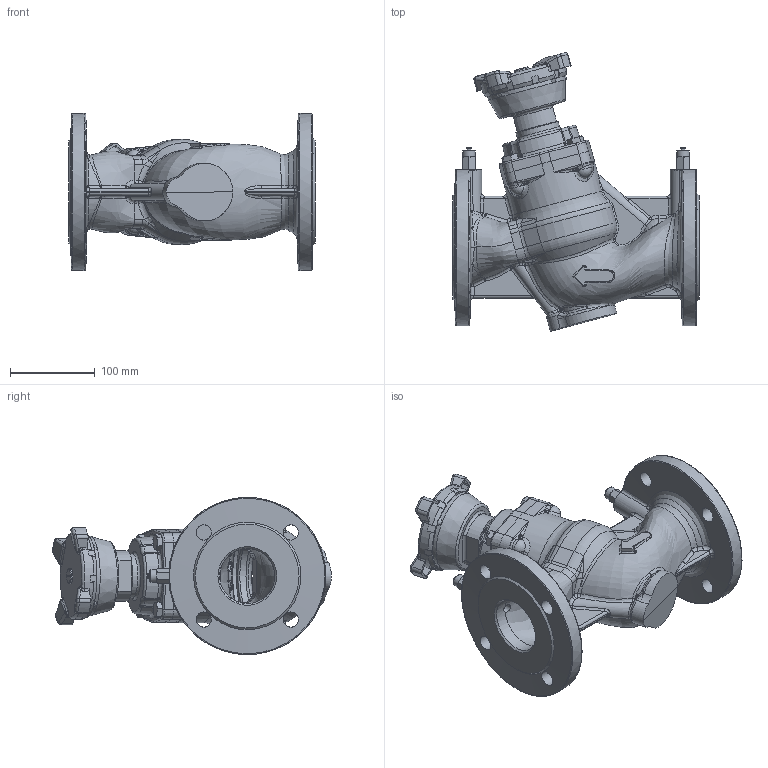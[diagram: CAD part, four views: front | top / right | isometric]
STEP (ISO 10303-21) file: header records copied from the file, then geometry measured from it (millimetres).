
FILE_DESCRIPTION (( 'STEP AP203' ), '1' );
FILE_NAME ('EKOFLUX.S_DN065.STEP', '2013-01-17T10:06:27', ( 'luca.saino' ), ( 'Hewlett-Packard Company' ), 'SwSTEP 2.0', 'SolidWorks 2012', '' );
FILE_SCHEMA (( 'CONFIG_CONTROL_DESIGN' ));
Products named in the file (1): EKOFLUX.S_DN065
Bounding box: 290 x 328.29 x 184.98 mm (x, y, z)
Volume: 3047385.7 mm3; surface area: 383740.5 mm2
Topology: 1 solids, 15 shells, 1312 faces, 3188 edges, 1876 vertices
Faces by surface type: bspline 456, plane 311, cylinder 243, cone 147, torus 121, sphere 34
Full cylindrical faces by diameter (mm): 4 x2, 5 x2, 6.5 x2, 8.5 x6, 10 x6, 11 x4, 11.44 x2, 15 x2, 18 x9, 65 x2, 78.2 x1, 95 x1, 102 x1, 110 x1
Entity records: 69119 total; most frequent: CARTESIAN_POINT 42965, ORIENTED_EDGE 6020, DIRECTION 4617, EDGE_CURVE 3010, AXIS2_PLACEMENT_3D 1991, VERTEX_POINT 1814, EDGE_LOOP 1426, FACE_OUTER_BOUND 1362
